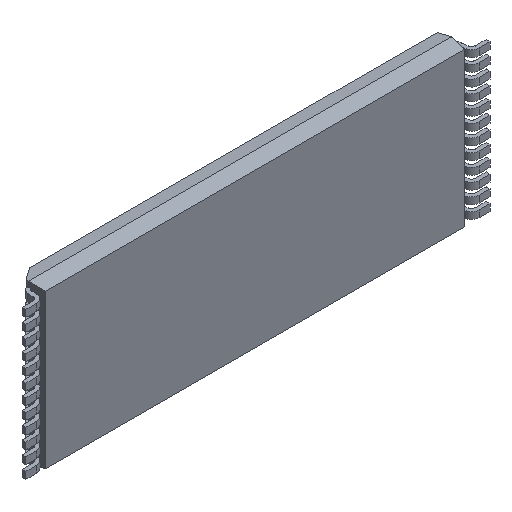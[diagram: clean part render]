
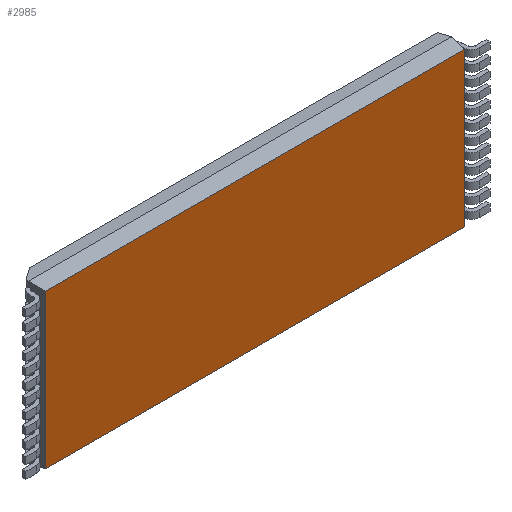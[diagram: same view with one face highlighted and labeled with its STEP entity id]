
A CAD part, isometric view. The second image highlights one B-rep face of the part: STEP entity #2985.
In plain terms, the highlighted planar face has unit normal (0, -1, 0).
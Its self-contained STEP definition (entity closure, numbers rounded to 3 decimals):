
#548 = AXIS2_PLACEMENT_3D ( 'NONE', #12045, #12057, #12058 ) ;
#2985 = ADVANCED_FACE ( 'NONE', ( #4208 ), #12044, .F. ) ;
#2994 = CARTESIAN_POINT ( 'NONE',  ( 8.3, 0.1, -3.016 ) ) ;
#2996 = DIRECTION ( 'NONE',  ( 1., 0., 0. ) ) ;
#3062 = DIRECTION ( 'NONE',  ( 0., 0., -1. ) ) ;
#3069 = CARTESIAN_POINT ( 'NONE',  ( -8.216, 0.1, 3.1 ) ) ;
#3230 = DIRECTION ( 'NONE',  ( -1., 0., 0. ) ) ;
#3256 = CARTESIAN_POINT ( 'NONE',  ( 8.3, 0.1, 3.016 ) ) ;
#3986 = ORIENTED_EDGE ( 'NONE', *, *, #10761, .T. ) ;
#3988 = ORIENTED_EDGE ( 'NONE', *, *, #9760, .T. ) ;
#3990 = ORIENTED_EDGE ( 'NONE', *, *, #10686, .T. ) ;
#4011 = ORIENTED_EDGE ( 'NONE', *, *, #10705, .T. ) ;
#4208 = FACE_OUTER_BOUND ( 'NONE', #10434, .T. ) ;
#6779 = CARTESIAN_POINT ( 'NONE',  ( 8.216, 0.1, 3.1 ) ) ;
#6781 = DIRECTION ( 'NONE',  ( 0., 0., 1. ) ) ;
#7503 = VERTEX_POINT ( 'NONE', #11196 ) ;
#7507 = VERTEX_POINT ( 'NONE', #11200 ) ;
#7512 = VERTEX_POINT ( 'NONE', #11205 ) ;
#7514 = VERTEX_POINT ( 'NONE', #11207 ) ;
#8738 = VECTOR ( 'NONE', #3230, 1000. ) ;
#8766 = LINE ( 'NONE', #3256, #8738 ) ;
#8838 = VECTOR ( 'NONE', #3062, 1000. ) ;
#8842 = LINE ( 'NONE', #3069, #8838 ) ;
#8875 = VECTOR ( 'NONE', #2996, 1000. ) ;
#8878 = LINE ( 'NONE', #2994, #8875 ) ;
#9760 = EDGE_CURVE ( 'NONE', #7503, #7507, #12946, .T. ) ;
#10434 = EDGE_LOOP ( 'NONE', ( #4011, #3990, #3988, #3986 ) ) ;
#10686 = EDGE_CURVE ( 'NONE', #7514, #7503, #8878, .T. ) ;
#10705 = EDGE_CURVE ( 'NONE', #7512, #7514, #8842, .T. ) ;
#10761 = EDGE_CURVE ( 'NONE', #7507, #7512, #8766, .T. ) ;
#11196 = CARTESIAN_POINT ( 'NONE',  ( 8.216, 0.1, -3.016 ) ) ;
#11200 = CARTESIAN_POINT ( 'NONE',  ( 8.216, 0.1, 3.016 ) ) ;
#11205 = CARTESIAN_POINT ( 'NONE',  ( -8.216, 0.1, 3.016 ) ) ;
#11207 = CARTESIAN_POINT ( 'NONE',  ( -8.216, 0.1, -3.016 ) ) ;
#12044 = PLANE ( 'NONE',  #548 ) ;
#12045 = CARTESIAN_POINT ( 'NONE',  ( 0., 0.1, 0. ) ) ;
#12057 = DIRECTION ( 'NONE',  ( 0., 1., 0. ) ) ;
#12058 = DIRECTION ( 'NONE',  ( 0., 0., 1. ) ) ;
#12943 = VECTOR ( 'NONE', #6781, 1000. ) ;
#12946 = LINE ( 'NONE', #6779, #12943 ) ;
